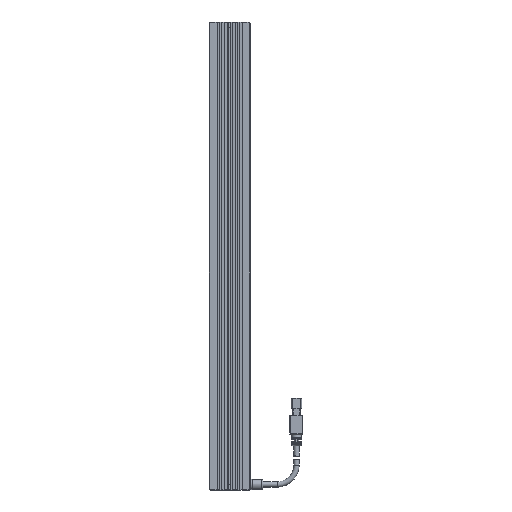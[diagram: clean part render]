
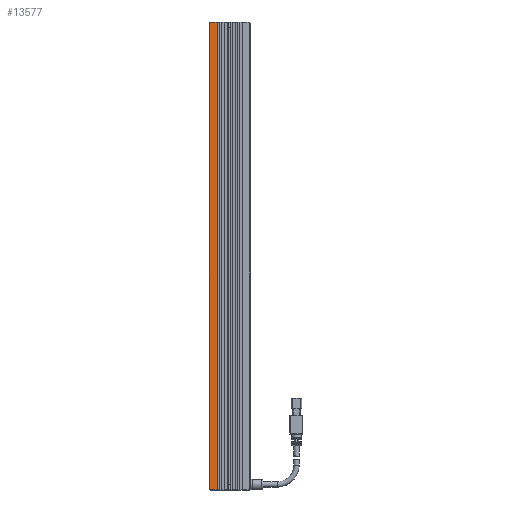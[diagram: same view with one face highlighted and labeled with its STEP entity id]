
A CAD part, top view. The second image highlights one B-rep face of the part: STEP entity #13577.
In plain terms, the highlighted planar face has unit normal (0, 0, 1).
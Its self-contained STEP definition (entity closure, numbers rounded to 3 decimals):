
#174 = CARTESIAN_POINT ( 'NONE',  ( -15., -181., 12.5 ) ) ;
#416 = EDGE_CURVE ( 'NONE', #19472, #7637, #1507, .T. ) ;
#827 = DIRECTION ( 'NONE',  ( -0.707, -0.707, 0. ) ) ;
#1226 = CARTESIAN_POINT ( 'NONE',  ( -15.5, -180.5, 12.5 ) ) ;
#1363 = VECTOR ( 'NONE', #11907, 1000. ) ;
#1507 = LINE ( 'NONE', #9164, #14419 ) ;
#2164 = DIRECTION ( 'NONE',  ( 1., 0., 0. ) ) ;
#4160 = DIRECTION ( 'NONE',  ( 1., 0., 0. ) ) ;
#4592 = LINE ( 'NONE', #10000, #9824 ) ;
#4887 = LINE ( 'NONE', #8424, #17685 ) ;
#5623 = CARTESIAN_POINT ( 'NONE',  ( -15.5, -181., 12.5 ) ) ;
#6225 = DIRECTION ( 'NONE',  ( -1., 0., 0. ) ) ;
#7022 = DIRECTION ( 'NONE',  ( 0., -1., 0. ) ) ;
#7357 = VERTEX_POINT ( 'NONE', #19023 ) ;
#7470 = EDGE_CURVE ( 'NONE', #7637, #15587, #14681, .T. ) ;
#7586 = DIRECTION ( 'NONE',  ( 0.707, -0.707, 0. ) ) ;
#7637 = VERTEX_POINT ( 'NONE', #174 ) ;
#7842 = CARTESIAN_POINT ( 'NONE',  ( -15.5, 181., 12.5 ) ) ;
#7980 = VERTEX_POINT ( 'NONE', #11584 ) ;
#8424 = CARTESIAN_POINT ( 'NONE',  ( -15.5, 181., 12.5 ) ) ;
#9164 = CARTESIAN_POINT ( 'NONE',  ( -16., -180., 12.5 ) ) ;
#9396 = VERTEX_POINT ( 'NONE', #13437 ) ;
#9411 = DIRECTION ( 'NONE',  ( 0., 0., -1. ) ) ;
#9449 = ORIENTED_EDGE ( 'NONE', *, *, #17222, .T. ) ;
#9741 = LINE ( 'NONE', #16085, #18501 ) ;
#9824 = VECTOR ( 'NONE', #827, 1000. ) ;
#10000 = CARTESIAN_POINT ( 'NONE',  ( -15., 181., 12.5 ) ) ;
#10236 = CARTESIAN_POINT ( 'NONE',  ( -15.5, 181., 12.5 ) ) ;
#10801 = EDGE_CURVE ( 'NONE', #7357, #7980, #4887, .T. ) ;
#11227 = AXIS2_PLACEMENT_3D ( 'NONE', #7842, #9411, #6225 ) ;
#11305 = EDGE_LOOP ( 'NONE', ( #18790, #9449, #13304, #18055, #11703, #14289 ) ) ;
#11388 = EDGE_CURVE ( 'NONE', #9396, #19472, #17562, .T. ) ;
#11584 = CARTESIAN_POINT ( 'NONE',  ( -9.7, 181., 12.5 ) ) ;
#11703 = ORIENTED_EDGE ( 'NONE', *, *, #7470, .T. ) ;
#11907 = DIRECTION ( 'NONE',  ( 0., -1., 0. ) ) ;
#13071 = CARTESIAN_POINT ( 'NONE',  ( -9.7, -181., 12.5 ) ) ;
#13304 = ORIENTED_EDGE ( 'NONE', *, *, #11388, .T. ) ;
#13437 = CARTESIAN_POINT ( 'NONE',  ( -15.5, 180.5, 12.5 ) ) ;
#13577 = ADVANCED_FACE ( 'NONE', ( #18237 ), #18612, .F. ) ;
#13813 = EDGE_CURVE ( 'NONE', #7980, #15587, #9741, .T. ) ;
#14289 = ORIENTED_EDGE ( 'NONE', *, *, #13813, .F. ) ;
#14419 = VECTOR ( 'NONE', #7586, 1000. ) ;
#14681 = LINE ( 'NONE', #5623, #17498 ) ;
#15587 = VERTEX_POINT ( 'NONE', #13071 ) ;
#16085 = CARTESIAN_POINT ( 'NONE',  ( -9.7, 181., 12.5 ) ) ;
#17222 = EDGE_CURVE ( 'NONE', #7357, #9396, #4592, .T. ) ;
#17498 = VECTOR ( 'NONE', #4160, 1000. ) ;
#17562 = LINE ( 'NONE', #10236, #1363 ) ;
#17685 = VECTOR ( 'NONE', #2164, 1000. ) ;
#18055 = ORIENTED_EDGE ( 'NONE', *, *, #416, .T. ) ;
#18237 = FACE_OUTER_BOUND ( 'NONE', #11305, .T. ) ;
#18501 = VECTOR ( 'NONE', #7022, 1000. ) ;
#18612 = PLANE ( 'NONE',  #11227 ) ;
#18790 = ORIENTED_EDGE ( 'NONE', *, *, #10801, .F. ) ;
#19023 = CARTESIAN_POINT ( 'NONE',  ( -15., 181., 12.5 ) ) ;
#19472 = VERTEX_POINT ( 'NONE', #1226 ) ;
